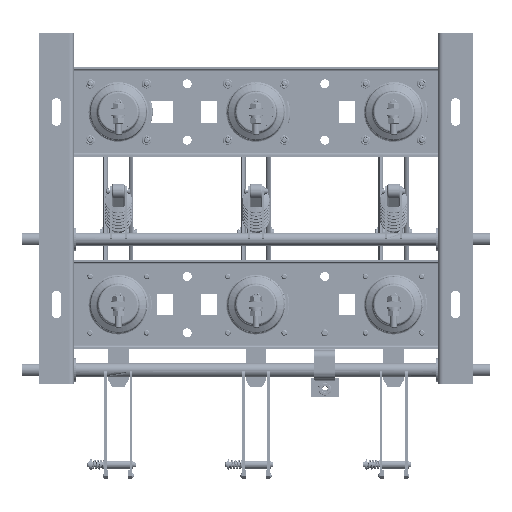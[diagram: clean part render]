
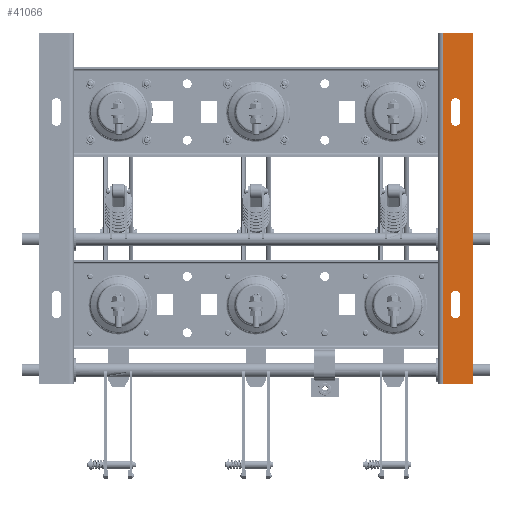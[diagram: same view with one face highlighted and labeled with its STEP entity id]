
A CAD part, front view. The second image highlights one B-rep face of the part: STEP entity #41066.
In plain terms, the highlighted planar face has unit normal (0, -1, 0).
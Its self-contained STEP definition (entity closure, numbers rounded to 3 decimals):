
#262 = DIRECTION ( 'NONE',  ( -1., 0., 0. ) ) ;
#4211 = PLANE ( 'NONE',  #17930 ) ;
#6880 = CARTESIAN_POINT ( 'NONE',  ( 290., 0., 127. ) ) ;
#12378 = CARTESIAN_POINT ( 'NONE',  ( 315., 0., -255. ) ) ;
#15592 = FACE_BOUND ( 'NONE', #40907, .T. ) ;
#17230 = EDGE_CURVE ( 'NONE', #147944, #69216, #109170, .T. ) ;
#17930 = AXIS2_PLACEMENT_3D ( 'NONE', #189616, #96199, #112445 ) ;
#19458 = CARTESIAN_POINT ( 'NONE',  ( 271., 0., 255. ) ) ;
#22414 = DIRECTION ( 'NONE',  ( 1., 0., 0. ) ) ;
#24212 = DIRECTION ( 'NONE',  ( 0., 0., 1. ) ) ;
#25936 = DIRECTION ( 'NONE',  ( 0., -1., 0. ) ) ;
#27191 = CARTESIAN_POINT ( 'NONE',  ( 297., 0., 127. ) ) ;
#27812 = CIRCLE ( 'NONE', #78821, 7. ) ;
#28007 = ORIENTED_EDGE ( 'NONE', *, *, #109283, .F. ) ;
#28769 = VERTEX_POINT ( 'NONE', #63644 ) ;
#30099 = CARTESIAN_POINT ( 'NONE',  ( 297., 0., 153. ) ) ;
#30742 = LINE ( 'NONE', #192879, #195415 ) ;
#31515 = VECTOR ( 'NONE', #138560, 1000. ) ;
#32667 = VERTEX_POINT ( 'NONE', #96717 ) ;
#34612 = ORIENTED_EDGE ( 'NONE', *, *, #110887, .F. ) ;
#36137 = DIRECTION ( 'NONE',  ( 0., 0., 1. ) ) ;
#39499 = DIRECTION ( 'NONE',  ( 0., 0., -1. ) ) ;
#40907 = EDGE_LOOP ( 'NONE', ( #71506, #56520, #79736, #55083 ) ) ;
#41066 = ADVANCED_FACE ( 'NONE', ( #102735, #93018, #15592 ), #4211, .T. ) ;
#45907 = CARTESIAN_POINT ( 'NONE',  ( 315., 0., -255. ) ) ;
#48296 = DIRECTION ( 'NONE',  ( 0., 0., 1. ) ) ;
#48406 = VECTOR ( 'NONE', #48296, 1000. ) ;
#48714 = EDGE_CURVE ( 'NONE', #171941, #117580, #96408, .T. ) ;
#52661 = CARTESIAN_POINT ( 'NONE',  ( 283., 0., -153. ) ) ;
#54236 = EDGE_CURVE ( 'NONE', #32667, #28769, #100002, .T. ) ;
#54659 = CARTESIAN_POINT ( 'NONE',  ( 297., 0., 127. ) ) ;
#55083 = ORIENTED_EDGE ( 'NONE', *, *, #70274, .F. ) ;
#56448 = ORIENTED_EDGE ( 'NONE', *, *, #81202, .F. ) ;
#56520 = ORIENTED_EDGE ( 'NONE', *, *, #17230, .F. ) ;
#57036 = EDGE_CURVE ( 'NONE', #65636, #171941, #108957, .T. ) ;
#63644 = CARTESIAN_POINT ( 'NONE',  ( 283., 0., 127. ) ) ;
#65636 = VERTEX_POINT ( 'NONE', #12378 ) ;
#65727 = VERTEX_POINT ( 'NONE', #140883 ) ;
#68601 = LINE ( 'NONE', #143740, #73437 ) ;
#69216 = VERTEX_POINT ( 'NONE', #190215 ) ;
#70274 = EDGE_CURVE ( 'NONE', #175342, #185740, #188328, .T. ) ;
#71506 = ORIENTED_EDGE ( 'NONE', *, *, #179971, .F. ) ;
#73437 = VECTOR ( 'NONE', #36137, 1000. ) ;
#78821 = AXIS2_PLACEMENT_3D ( 'NONE', #151171, #109503, #140437 ) ;
#79736 = ORIENTED_EDGE ( 'NONE', *, *, #192893, .F. ) ;
#81202 = EDGE_CURVE ( 'NONE', #169279, #121851, #125724, .T. ) ;
#84612 = VECTOR ( 'NONE', #24212, 1000. ) ;
#84711 = LINE ( 'NONE', #186960, #48406 ) ;
#85279 = DIRECTION ( 'NONE',  ( 1., 0., 0. ) ) ;
#91520 = DIRECTION ( 'NONE',  ( -1., 0., 0. ) ) ;
#92960 = DIRECTION ( 'NONE',  ( 0., -1., 0. ) ) ;
#93018 = FACE_BOUND ( 'NONE', #177683, .T. ) ;
#96199 = DIRECTION ( 'NONE',  ( 0., -1., 0. ) ) ;
#96408 = LINE ( 'NONE', #153737, #132742 ) ;
#96717 = CARTESIAN_POINT ( 'NONE',  ( 283., 0., 153. ) ) ;
#100002 = LINE ( 'NONE', #116577, #136347 ) ;
#102735 = FACE_OUTER_BOUND ( 'NONE', #142620, .T. ) ;
#106131 = CARTESIAN_POINT ( 'NONE',  ( 315., 0., 255. ) ) ;
#108887 = CIRCLE ( 'NONE', #143401, 7. ) ;
#108957 = LINE ( 'NONE', #45907, #31515 ) ;
#109170 = CIRCLE ( 'NONE', #113158, 7. ) ;
#109283 = EDGE_CURVE ( 'NONE', #121851, #32667, #27812, .T. ) ;
#109503 = DIRECTION ( 'NONE',  ( 0., -1., 0. ) ) ;
#110887 = EDGE_CURVE ( 'NONE', #65727, #117580, #68601, .T. ) ;
#111180 = CARTESIAN_POINT ( 'NONE',  ( 283., 0., -127. ) ) ;
#112445 = DIRECTION ( 'NONE',  ( -1., 0., 0. ) ) ;
#113158 = AXIS2_PLACEMENT_3D ( 'NONE', #118610, #25936, #134194 ) ;
#115090 = DIRECTION ( 'NONE',  ( 0., -1., 0. ) ) ;
#116577 = CARTESIAN_POINT ( 'NONE',  ( 283., 0., 153. ) ) ;
#116978 = EDGE_CURVE ( 'NONE', #65727, #65636, #30742, .T. ) ;
#117580 = VERTEX_POINT ( 'NONE', #19458 ) ;
#118610 = CARTESIAN_POINT ( 'NONE',  ( 290., 0., -153. ) ) ;
#121851 = VERTEX_POINT ( 'NONE', #30099 ) ;
#125724 = LINE ( 'NONE', #54659, #84612 ) ;
#126729 = DIRECTION ( 'NONE',  ( 0., 0., -1. ) ) ;
#127196 = VECTOR ( 'NONE', #126729, 1000. ) ;
#132742 = VECTOR ( 'NONE', #91520, 1000. ) ;
#134194 = DIRECTION ( 'NONE',  ( 1., 0., 0. ) ) ;
#136347 = VECTOR ( 'NONE', #39499, 1000. ) ;
#138560 = DIRECTION ( 'NONE',  ( 0., 0., 1. ) ) ;
#140437 = DIRECTION ( 'NONE',  ( -1., 0., 0. ) ) ;
#140883 = CARTESIAN_POINT ( 'NONE',  ( 271., 0., -255. ) ) ;
#142620 = EDGE_LOOP ( 'NONE', ( #195980, #188835, #200043, #34612 ) ) ;
#143401 = AXIS2_PLACEMENT_3D ( 'NONE', #6880, #115090, #22414 ) ;
#143740 = CARTESIAN_POINT ( 'NONE',  ( 271., 0., -255. ) ) ;
#147944 = VERTEX_POINT ( 'NONE', #52661 ) ;
#151171 = CARTESIAN_POINT ( 'NONE',  ( 290., 0., 153. ) ) ;
#151829 = CARTESIAN_POINT ( 'NONE',  ( 297., 0., -127. ) ) ;
#153737 = CARTESIAN_POINT ( 'NONE',  ( 315., 0., 255. ) ) ;
#154533 = AXIS2_PLACEMENT_3D ( 'NONE', #185708, #92960, #262 ) ;
#158635 = LINE ( 'NONE', #111180, #127196 ) ;
#163609 = CARTESIAN_POINT ( 'NONE',  ( 283., 0., -127. ) ) ;
#169210 = ORIENTED_EDGE ( 'NONE', *, *, #54236, .F. ) ;
#169279 = VERTEX_POINT ( 'NONE', #27191 ) ;
#169691 = ORIENTED_EDGE ( 'NONE', *, *, #178644, .F. ) ;
#171941 = VERTEX_POINT ( 'NONE', #106131 ) ;
#175342 = VERTEX_POINT ( 'NONE', #151829 ) ;
#177683 = EDGE_LOOP ( 'NONE', ( #56448, #169691, #169210, #28007 ) ) ;
#178644 = EDGE_CURVE ( 'NONE', #28769, #169279, #108887, .T. ) ;
#179971 = EDGE_CURVE ( 'NONE', #69216, #175342, #84711, .T. ) ;
#185708 = CARTESIAN_POINT ( 'NONE',  ( 290., 0., -127. ) ) ;
#185740 = VERTEX_POINT ( 'NONE', #163609 ) ;
#186960 = CARTESIAN_POINT ( 'NONE',  ( 297., 0., -153. ) ) ;
#188328 = CIRCLE ( 'NONE', #154533, 7. ) ;
#188835 = ORIENTED_EDGE ( 'NONE', *, *, #57036, .T. ) ;
#189616 = CARTESIAN_POINT ( 'NONE',  ( 271.345, 0., -255. ) ) ;
#190215 = CARTESIAN_POINT ( 'NONE',  ( 297., 0., -153. ) ) ;
#192879 = CARTESIAN_POINT ( 'NONE',  ( 271., 0., -255. ) ) ;
#192893 = EDGE_CURVE ( 'NONE', #185740, #147944, #158635, .T. ) ;
#195415 = VECTOR ( 'NONE', #85279, 1000. ) ;
#195980 = ORIENTED_EDGE ( 'NONE', *, *, #116978, .T. ) ;
#200043 = ORIENTED_EDGE ( 'NONE', *, *, #48714, .T. ) ;
